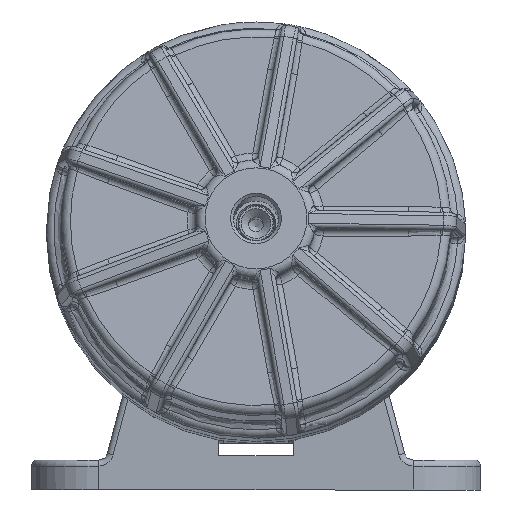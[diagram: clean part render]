
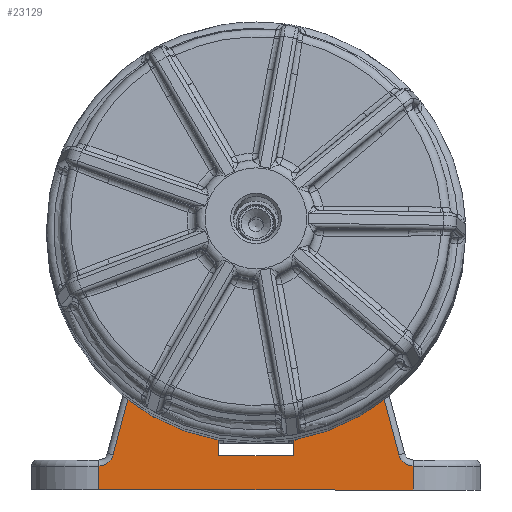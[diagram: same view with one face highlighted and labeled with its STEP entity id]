
A CAD part, front view. The second image highlights one B-rep face of the part: STEP entity #23129.
In plain terms, the highlighted planar face has unit normal (0, -1, 0).
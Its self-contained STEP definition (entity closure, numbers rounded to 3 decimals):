
#3093=LINE('',#45040,#4400);
#3105=LINE('',#45065,#4412);
#3106=LINE('',#45068,#4413);
#3125=LINE('',#45122,#4432);
#3137=LINE('',#45154,#4444);
#3180=LINE('',#45254,#4487);
#3218=LINE('',#45405,#4525);
#3228=LINE('',#45434,#4535);
#3245=LINE('',#45473,#4552);
#3274=LINE('',#45603,#4581);
#3276=LINE('',#45674,#4583);
#3278=LINE('',#45680,#4585);
#3283=LINE('',#45723,#4590);
#3285=LINE('',#45761,#4592);
#3286=LINE('',#45764,#4593);
#3289=LINE('',#45780,#4596);
#4400=VECTOR('',#28127,10.);
#4412=VECTOR('',#28155,10.);
#4413=VECTOR('',#28158,10.);
#4432=VECTOR('',#28205,10.);
#4444=VECTOR('',#28241,10.);
#4487=VECTOR('',#28310,10.);
#4525=VECTOR('',#28418,10.);
#4535=VECTOR('',#28442,10.);
#4552=VECTOR('',#28475,10.);
#4581=VECTOR('',#28570,10.);
#4583=VECTOR('',#28602,10.);
#4585=VECTOR('',#28608,10.);
#4590=VECTOR('',#28629,10.);
#4592=VECTOR('',#28651,10.);
#4593=VECTOR('',#28656,10.);
#4596=VECTOR('',#28677,10.);
#5593=PLANE('',#24829);
#6573=FACE_OUTER_BOUND('',#7875,.T.);
#7875=EDGE_LOOP('',(#18943,#18944,#18945,#18946,#18947,#18948,#18949,#18950,
#18951,#18952,#18953,#18954,#18955,#18956,#18957,#18958,#18959,#18960));
#9144=CIRCLE('',#24797,5.);
#9149=CIRCLE('',#24806,5.);
#10771=VERTEX_POINT('',#45034);
#10772=VERTEX_POINT('',#45039);
#10777=VERTEX_POINT('',#45063);
#10778=VERTEX_POINT('',#45067);
#10797=VERTEX_POINT('',#45113);
#10799=VERTEX_POINT('',#45120);
#10807=VERTEX_POINT('',#45153);
#10851=VERTEX_POINT('',#45253);
#10908=VERTEX_POINT('',#45402);
#10909=VERTEX_POINT('',#45404);
#10921=VERTEX_POINT('',#45433);
#10935=VERTEX_POINT('',#45471);
#10968=VERTEX_POINT('',#45663);
#10969=VERTEX_POINT('',#45670);
#10971=VERTEX_POINT('',#45678);
#10975=VERTEX_POINT('',#45691);
#10976=VERTEX_POINT('',#45693);
#10979=VERTEX_POINT('',#45760);
#13539=EDGE_CURVE('',#10772,#10771,#3093,.T.);
#13552=EDGE_CURVE('',#10771,#10777,#3105,.T.);
#13553=EDGE_CURVE('',#10778,#10772,#3106,.T.);
#13580=EDGE_CURVE('',#10797,#10799,#3125,.T.);
#13596=EDGE_CURVE('',#10807,#10797,#3137,.T.);
#13646=EDGE_CURVE('',#10851,#10778,#3180,.T.);
#13713=EDGE_CURVE('',#10909,#10908,#3218,.T.);
#13728=EDGE_CURVE('',#10921,#10807,#3228,.T.);
#13750=EDGE_CURVE('',#10777,#10935,#3245,.T.);
#13799=EDGE_CURVE('',#10799,#10909,#3274,.T.);
#13812=EDGE_CURVE('',#10968,#10969,#9144,.T.);
#13813=EDGE_CURVE('',#10969,#10935,#3276,.T.);
#13816=EDGE_CURVE('',#10971,#10968,#3278,.T.);
#13824=EDGE_CURVE('',#10976,#10975,#9149,.T.);
#13827=EDGE_CURVE('',#10921,#10976,#3283,.T.);
#13835=EDGE_CURVE('',#10979,#10975,#3285,.T.);
#13837=EDGE_CURVE('',#10908,#10851,#3286,.T.);
#13844=EDGE_CURVE('',#10979,#10971,#3289,.T.);
#18943=ORIENTED_EDGE('',*,*,#13812,.F.);
#18944=ORIENTED_EDGE('',*,*,#13816,.F.);
#18945=ORIENTED_EDGE('',*,*,#13844,.F.);
#18946=ORIENTED_EDGE('',*,*,#13835,.T.);
#18947=ORIENTED_EDGE('',*,*,#13824,.F.);
#18948=ORIENTED_EDGE('',*,*,#13827,.F.);
#18949=ORIENTED_EDGE('',*,*,#13728,.T.);
#18950=ORIENTED_EDGE('',*,*,#13596,.T.);
#18951=ORIENTED_EDGE('',*,*,#13580,.T.);
#18952=ORIENTED_EDGE('',*,*,#13799,.T.);
#18953=ORIENTED_EDGE('',*,*,#13713,.T.);
#18954=ORIENTED_EDGE('',*,*,#13837,.T.);
#18955=ORIENTED_EDGE('',*,*,#13646,.T.);
#18956=ORIENTED_EDGE('',*,*,#13553,.T.);
#18957=ORIENTED_EDGE('',*,*,#13539,.T.);
#18958=ORIENTED_EDGE('',*,*,#13552,.T.);
#18959=ORIENTED_EDGE('',*,*,#13750,.T.);
#18960=ORIENTED_EDGE('',*,*,#13813,.F.);
#23129=ADVANCED_FACE('',(#6573),#5593,.T.);
#24797=AXIS2_PLACEMENT_3D('',#45672,#28598,#28599);
#24806=AXIS2_PLACEMENT_3D('',#45695,#28623,#28624);
#24829=AXIS2_PLACEMENT_3D('',#45779,#28675,#28676);
#28127=DIRECTION('',(-1.,0.,0.));
#28155=DIRECTION('',(-1.,0.,0.));
#28158=DIRECTION('',(-1.,0.,0.));
#28205=DIRECTION('',(-1.,0.,0.));
#28241=DIRECTION('',(-1.,0.,0.));
#28310=DIRECTION('',(0.,0.,1.));
#28418=DIRECTION('',(0.,0.,-1.));
#28442=DIRECTION('',(0.,0.,1.));
#28475=DIRECTION('',(0.,0.,-1.));
#28570=DIRECTION('',(-1.,0.,0.));
#28598=DIRECTION('center_axis',(0.,-1.,0.));
#28599=DIRECTION('ref_axis',(0.619,0.,-0.785));
#28602=DIRECTION('',(0.259,0.,0.966));
#28608=DIRECTION('',(0.,0.,1.));
#28623=DIRECTION('center_axis',(0.,-1.,0.));
#28624=DIRECTION('ref_axis',(-0.619,0.,-0.785));
#28629=DIRECTION('',(0.259,0.,-0.966));
#28651=DIRECTION('',(0.,0.,1.));
#28656=DIRECTION('',(-1.,0.,0.));
#28675=DIRECTION('center_axis',(0.,-1.,0.));
#28676=DIRECTION('ref_axis',(0.,0.,
-1.));
#28677=DIRECTION('',(-1.,0.,0.));
#45034=CARTESIAN_POINT('',(-27.,-13.5,110.35));
#45039=CARTESIAN_POINT('',(-14.,-13.5,110.35));
#45040=CARTESIAN_POINT('',(52.5,-13.5,110.35));
#45063=CARTESIAN_POINT('',(-27.5,-13.5,110.35));
#45065=CARTESIAN_POINT('',(52.5,-13.5,110.35));
#45067=CARTESIAN_POINT('',(-12.5,-13.5,110.35));
#45068=CARTESIAN_POINT('',(52.5,-13.5,110.35));
#45113=CARTESIAN_POINT('',(27.,-13.5,110.35));
#45120=CARTESIAN_POINT('',(14.,-13.5,110.35));
#45122=CARTESIAN_POINT('',(52.5,-13.5,110.35));
#45153=CARTESIAN_POINT('',(27.5,-13.5,110.35));
#45154=CARTESIAN_POINT('',(52.5,-13.5,110.35));
#45253=CARTESIAN_POINT('',(-12.5,-13.5,11.85));
#45254=CARTESIAN_POINT('',(-12.5,-13.5,55.35));
#45402=CARTESIAN_POINT('',(12.5,-13.5,11.85));
#45404=CARTESIAN_POINT('',(12.5,-13.5,110.35));
#45405=CARTESIAN_POINT('',(12.5,-13.5,6.1));
#45433=CARTESIAN_POINT('',(27.5,-13.5,87.623));
#45434=CARTESIAN_POINT('',(27.5,-13.5,55.35));
#45471=CARTESIAN_POINT('',(-27.5,-13.5,87.623));
#45473=CARTESIAN_POINT('',(-27.5,-13.5,47.85));
#45603=CARTESIAN_POINT('',(52.5,-13.5,110.35));
#45663=CARTESIAN_POINT('',(-52.5,-13.5,8.351));
#45670=CARTESIAN_POINT('',(-47.748,-13.5,12.056));
#45672=CARTESIAN_POINT('Origin',(-52.578,-13.5,13.35));
#45674=CARTESIAN_POINT('',(-45.854,-13.5,19.126));
#45678=CARTESIAN_POINT('',(-52.5,-13.5,0.35));
#45680=CARTESIAN_POINT('',(-52.5,-13.5,0.35));
#45691=CARTESIAN_POINT('',(52.5,-13.5,8.351));
#45693=CARTESIAN_POINT('',(47.748,-13.5,12.056));
#45695=CARTESIAN_POINT('Origin',(52.578,-13.5,13.35));
#45723=CARTESIAN_POINT('',(38.28,-13.5,47.389));
#45760=CARTESIAN_POINT('',(52.5,-13.5,0.35));
#45761=CARTESIAN_POINT('',(52.5,-13.5,0.35));
#45764=CARTESIAN_POINT('',(27.955,-13.5,11.85));
#45779=CARTESIAN_POINT('Origin',(52.5,-13.5,0.35));
#45780=CARTESIAN_POINT('',(52.5,-13.5,0.35));
